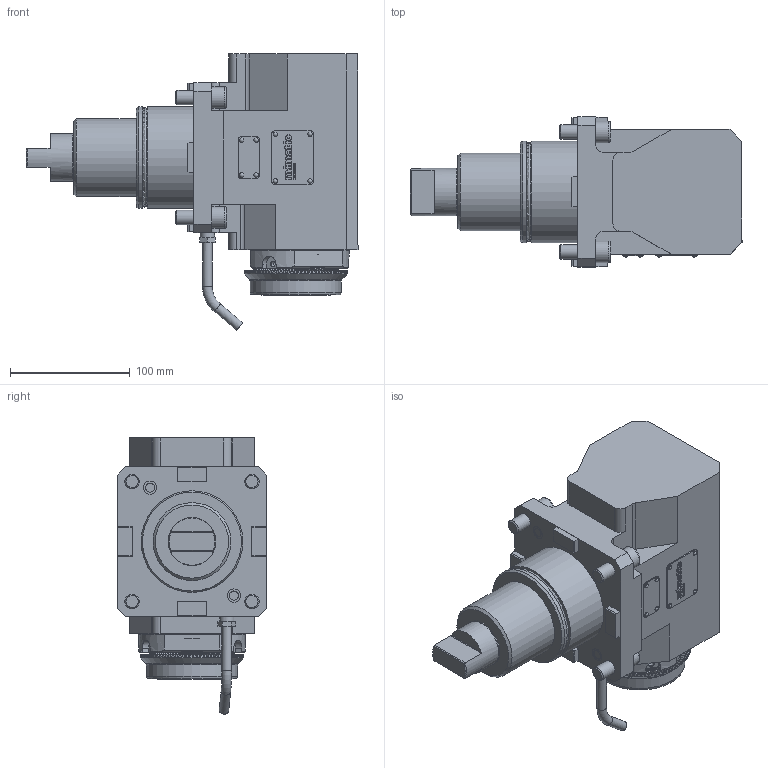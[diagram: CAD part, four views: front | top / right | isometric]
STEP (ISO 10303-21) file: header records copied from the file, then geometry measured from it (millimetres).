
FILE_DESCRIPTION(/* description */ (''),/* implementation_level */ '2;1');
FILE_NAME(/* name */ '202909',/* time_stamp */ '2024-03-12T12:50:13+01:00',/* author */ (''),/* organization */ (''),/* preprocessor_version */ 'ST-DEVELOPER v16.5',/* originating_system */ 'HiCAD 2017 2201.0 Build 268',/* authorisation */ '');
FILE_SCHEMA (('AUTOMOTIVE_DESIGN { 1 0 10303 214 1 1 1 1 }'));
Products named in the file (2): Root; Teil
Assembly tree (1 placements, depth 2):
  Root
    Teil
Bounding box: 277 x 125 x 230.41 mm (x, y, z)
Volume: 2732234.2 mm3; surface area: 191726.6 mm2
Topology: 3 solids, 29 shells, 1325 faces, 3519 edges, 2301 vertices
Faces by surface type: plane 789, cylinder 239, cone 219, bspline 38, torus 20, sphere 20
Full cylindrical faces by diameter (mm): 2 x8, 2.2 x8, 4 x3, 5 x6, 6 x5, 6.5 x3, 7.2 x3, 7.65 x2, 8 x2, 11.01 x2, 11.12 x6, 12 x6, 13.7 x3, 18 x5, 28 x1, 39.5 x1, 40 x1, 45 x1, 57.3 x1, 58 x1, 58.01 x1, 58.15 x1, 58.773 x1, 60 x1, 60.3 x1, 65 x2, 65.707 x1, 70 x1, 74 x1, 75 x1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
Entity records: 79228 total; most frequent: CARTESIAN_POINT 14936, DIRECTION 6608, PRESENTATION_STYLE_ASSIGNMENT 6587, COLOUR_RGB 6587, DRAUGHTING_PRE_DEFINED_CURVE_FONT 6586, CURVE_STYLE 6586, OVER_RIDING_STYLED_ITEM 6586, ORIENTED_EDGE 6586
